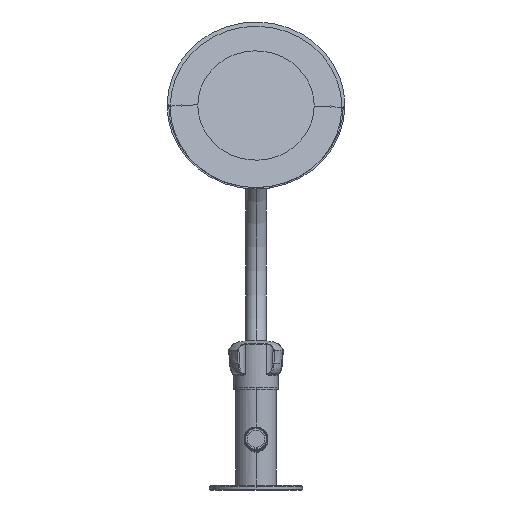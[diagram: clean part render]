
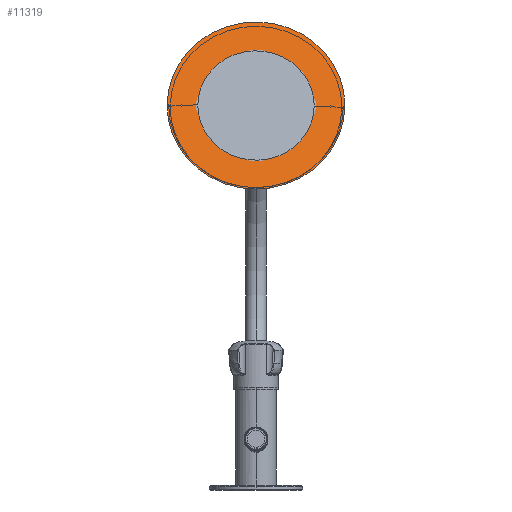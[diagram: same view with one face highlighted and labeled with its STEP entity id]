
A CAD part, front view. The second image highlights one B-rep face of the part: STEP entity #11319.
In plain terms, the highlighted planar face has unit normal (0, -0.94, 0.342).
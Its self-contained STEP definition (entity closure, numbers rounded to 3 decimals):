
#11091=CARTESIAN_POINT('',(0.,1136.459,
330.336));
#11092=DIRECTION('',(0.,0.94,-0.342));
#11093=DIRECTION('',(1.,-0.003,-0.009));
#11094=AXIS2_PLACEMENT_3D('',#11091,#11092,#11093);
#11096=CARTESIAN_POINT('',(0.,1136.459,
330.336));
#11097=DIRECTION('',(0.,0.94,-0.342));
#11098=DIRECTION('',(-1.,0.003,0.009));
#11099=AXIS2_PLACEMENT_3D('',#11096,#11097,#11098);
#11247=CARTESIAN_POINT('',(-76.365,1136.702,
331.004));
#11249=VERTEX_POINT('',#11247);
#11250=CARTESIAN_POINT('',(76.365,1136.216,329.668));
#11251=VERTEX_POINT('',#11250);
#11310=CARTESIAN_POINT('',(0.,1136.459,
330.336));
#11311=DIRECTION('',(0.,-0.94,0.342));
#11312=DIRECTION('',(-0.009,-0.342,-0.94));
#11313=AXIS2_PLACEMENT_3D('',#11310,#11311,#11312);
#11314=PLANE('',#11313);
#11315=ORIENTED_EDGE('',*,*,#11287,.T.);
#11316=ORIENTED_EDGE('',*,*,#11302,.T.);
#11317=EDGE_LOOP('',(#11315,#11316));
#11318=FACE_OUTER_BOUND('',#11317,.F.);
#11319=ADVANCED_FACE('',(#11318),#11314,.T.);
#11095=CIRCLE('',#11094,76.368);
#11100=CIRCLE('',#11099,76.368);
#11287=EDGE_CURVE('',#11251,#11249,#11095,.T.);
#11302=EDGE_CURVE('',#11249,#11251,#11100,.T.);
